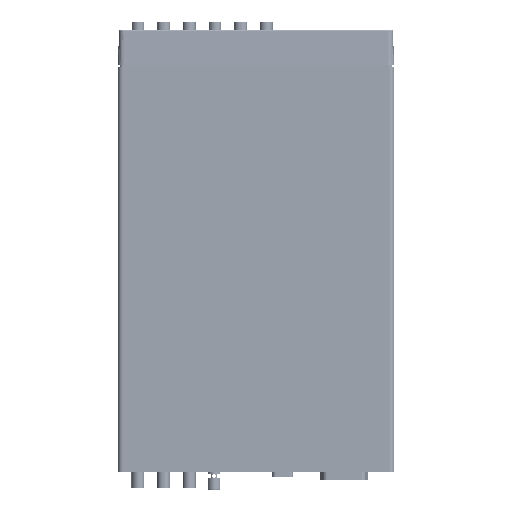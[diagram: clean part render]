
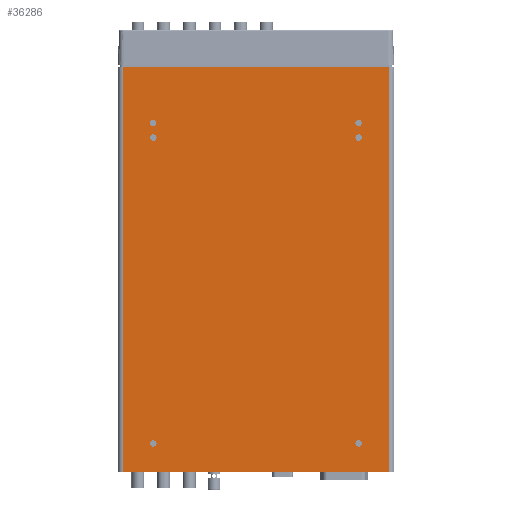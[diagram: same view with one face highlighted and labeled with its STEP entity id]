
A CAD part, front view. The second image highlights one B-rep face of the part: STEP entity #36286.
In plain terms, the highlighted planar face has unit normal (0, -1, 0) as drawn and (0, 1, 0) by its records, which use the part's own axes.
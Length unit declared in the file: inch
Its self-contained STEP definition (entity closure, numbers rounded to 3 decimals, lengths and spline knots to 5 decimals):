
#35405=DIRECTION('',(0.,0.,-1.));
#35406=VECTOR('',#35405,11.827);
#35407=CARTESIAN_POINT('',(-3.8888,0.,5.9135));
#35408=LINE('',#35407,#35406);
#35539=DIRECTION('',(-1.,0.,0.));
#35540=VECTOR('',#35539,7.7776);
#35541=CARTESIAN_POINT('',(3.8888,0.,5.9135));
#35542=LINE('',#35541,#35540);
#35551=DIRECTION('',(0.,0.,-1.));
#35552=VECTOR('',#35551,11.827);
#35553=CARTESIAN_POINT('',(3.8888,0.,5.9135));
#35554=LINE('',#35553,#35552);
#35555=CARTESIAN_POINT('',(-2.9992,0.,-5.0865));
#35556=DIRECTION('',(0.,-1.,0.));
#35557=DIRECTION('',(1.,0.,0.));
#35558=AXIS2_PLACEMENT_3D('',#35555,#35556,#35557);
#35560=CARTESIAN_POINT('',(-2.9992,0.,-5.0865));
#35561=DIRECTION('',(0.,-1.,0.));
#35562=DIRECTION('',(-1.,0.,0.));
#35563=AXIS2_PLACEMENT_3D('',#35560,#35561,#35562);
#35565=CARTESIAN_POINT('',(3.0008,0.,-5.0865));
#35566=DIRECTION('',(0.,-1.,0.));
#35567=DIRECTION('',(1.,0.,0.));
#35568=AXIS2_PLACEMENT_3D('',#35565,#35566,#35567);
#35570=CARTESIAN_POINT('',(3.0008,0.,-5.0865));
#35571=DIRECTION('',(0.,-1.,0.));
#35572=DIRECTION('',(-1.,0.,0.));
#35573=AXIS2_PLACEMENT_3D('',#35570,#35571,#35572);
#35575=CARTESIAN_POINT('',(-2.9992,0.,4.2785));
#35576=DIRECTION('',(0.,-1.,0.));
#35577=DIRECTION('',(1.,0.,0.));
#35578=AXIS2_PLACEMENT_3D('',#35575,#35576,#35577);
#35580=CARTESIAN_POINT('',(-2.9992,0.,4.2785));
#35581=DIRECTION('',(0.,-1.,0.));
#35582=DIRECTION('',(-1.,0.,0.));
#35583=AXIS2_PLACEMENT_3D('',#35580,#35581,#35582);
#35585=CARTESIAN_POINT('',(-2.9992,0.,3.8535));
#35586=DIRECTION('',(0.,-1.,0.));
#35587=DIRECTION('',(1.,0.,0.));
#35588=AXIS2_PLACEMENT_3D('',#35585,#35586,#35587);
#35590=CARTESIAN_POINT('',(-2.9992,0.,3.8535));
#35591=DIRECTION('',(0.,-1.,0.));
#35592=DIRECTION('',(-1.,0.,0.));
#35593=AXIS2_PLACEMENT_3D('',#35590,#35591,#35592);
#35595=CARTESIAN_POINT('',(3.0008,0.,3.8535));
#35596=DIRECTION('',(0.,-1.,0.));
#35597=DIRECTION('',(1.,0.,0.));
#35598=AXIS2_PLACEMENT_3D('',#35595,#35596,#35597);
#35600=CARTESIAN_POINT('',(3.0008,0.,3.8535));
#35601=DIRECTION('',(0.,-1.,0.));
#35602=DIRECTION('',(-1.,0.,0.));
#35603=AXIS2_PLACEMENT_3D('',#35600,#35601,#35602);
#35605=CARTESIAN_POINT('',(3.0008,0.,4.2785));
#35606=DIRECTION('',(0.,-1.,0.));
#35607=DIRECTION('',(1.,0.,0.));
#35608=AXIS2_PLACEMENT_3D('',#35605,#35606,#35607);
#35610=CARTESIAN_POINT('',(3.0008,0.,4.2785));
#35611=DIRECTION('',(0.,-1.,0.));
#35612=DIRECTION('',(-1.,0.,0.));
#35613=AXIS2_PLACEMENT_3D('',#35610,#35611,#35612);
#35615=DIRECTION('',(-1.,0.,0.));
#35616=VECTOR('',#35615,7.7776);
#35617=CARTESIAN_POINT('',(3.8888,0.,-5.9135));
#35618=LINE('',#35617,#35616);
#35695=CARTESIAN_POINT('',(3.8888,0.,5.9135));
#35696=CARTESIAN_POINT('',(-3.8888,0.,5.9135));
#35697=VERTEX_POINT('',#35695);
#35698=VERTEX_POINT('',#35696);
#35707=CARTESIAN_POINT('',(3.8888,0.,-5.9135));
#35708=CARTESIAN_POINT('',(-3.8888,0.,-5.9135));
#35709=VERTEX_POINT('',#35707);
#35710=VERTEX_POINT('',#35708);
#35795=CARTESIAN_POINT('',(3.09455,0.,4.2785));
#35796=CARTESIAN_POINT('',(2.90705,0.,4.2785));
#35797=VERTEX_POINT('',#35795);
#35798=VERTEX_POINT('',#35796);
#35799=CARTESIAN_POINT('',(3.09455,0.,3.8535));
#35800=CARTESIAN_POINT('',(2.90705,0.,3.8535));
#35801=VERTEX_POINT('',#35799);
#35802=VERTEX_POINT('',#35800);
#35803=CARTESIAN_POINT('',(-2.90545,0.,3.8535));
#35804=CARTESIAN_POINT('',(-3.09295,0.,3.8535));
#35805=VERTEX_POINT('',#35803);
#35806=VERTEX_POINT('',#35804);
#35807=CARTESIAN_POINT('',(-2.90545,0.,4.2785));
#35808=CARTESIAN_POINT('',(-3.09295,0.,4.2785));
#35809=VERTEX_POINT('',#35807);
#35810=VERTEX_POINT('',#35808);
#35811=CARTESIAN_POINT('',(3.09455,0.,-5.0865));
#35812=CARTESIAN_POINT('',(2.90705,0.,-5.0865));
#35813=VERTEX_POINT('',#35811);
#35814=VERTEX_POINT('',#35812);
#35815=CARTESIAN_POINT('',(-2.90545,0.,-5.0865));
#35816=CARTESIAN_POINT('',(-3.09295,0.,-5.0865));
#35817=VERTEX_POINT('',#35815);
#35818=VERTEX_POINT('',#35816);
#36238=CARTESIAN_POINT('',(3.8888,0.,5.9135));
#36239=DIRECTION('',(0.,1.,0.));
#36240=DIRECTION('',(-1.,0.,0.));
#36241=AXIS2_PLACEMENT_3D('',#36238,#36239,#36240);
#36242=PLANE('',#36241);
#36243=ORIENTED_EDGE('',*,*,#36230,.T.);
#36244=ORIENTED_EDGE('',*,*,#36092,.T.);
#36246=ORIENTED_EDGE('',*,*,#36245,.F.);
#36247=ORIENTED_EDGE('',*,*,#35943,.F.);
#36248=EDGE_LOOP('',(#36243,#36244,#36246,#36247));
#36249=FACE_OUTER_BOUND('',#36248,.F.);
#36251=ORIENTED_EDGE('',*,*,#36250,.F.);
#36253=ORIENTED_EDGE('',*,*,#36252,.F.);
#36254=EDGE_LOOP('',(#36251,#36253));
#36255=FACE_BOUND('',#36254,.F.);
#36257=ORIENTED_EDGE('',*,*,#36256,.F.);
#36259=ORIENTED_EDGE('',*,*,#36258,.F.);
#36260=EDGE_LOOP('',(#36257,#36259));
#36261=FACE_BOUND('',#36260,.F.);
#36263=ORIENTED_EDGE('',*,*,#36262,.F.);
#36265=ORIENTED_EDGE('',*,*,#36264,.F.);
#36266=EDGE_LOOP('',(#36263,#36265));
#36267=FACE_BOUND('',#36266,.F.);
#36269=ORIENTED_EDGE('',*,*,#36268,.F.);
#36271=ORIENTED_EDGE('',*,*,#36270,.F.);
#36272=EDGE_LOOP('',(#36269,#36271));
#36273=FACE_BOUND('',#36272,.F.);
#36275=ORIENTED_EDGE('',*,*,#36274,.F.);
#36277=ORIENTED_EDGE('',*,*,#36276,.F.);
#36278=EDGE_LOOP('',(#36275,#36277));
#36279=FACE_BOUND('',#36278,.F.);
#36281=ORIENTED_EDGE('',*,*,#36280,.F.);
#36283=ORIENTED_EDGE('',*,*,#36282,.F.);
#36284=EDGE_LOOP('',(#36281,#36283));
#36285=FACE_BOUND('',#36284,.F.);
#36286=ADVANCED_FACE('',(#36249,#36255,#36261,#36267,#36273,#36279,#36285),
#36242,.T.);
#35559=CIRCLE('',#35558,0.09375);
#35564=CIRCLE('',#35563,0.09375);
#35569=CIRCLE('',#35568,0.09375);
#35574=CIRCLE('',#35573,0.09375);
#35579=CIRCLE('',#35578,0.09375);
#35584=CIRCLE('',#35583,0.09375);
#35589=CIRCLE('',#35588,0.09375);
#35594=CIRCLE('',#35593,0.09375);
#35599=CIRCLE('',#35598,0.09375);
#35604=CIRCLE('',#35603,0.09375);
#35609=CIRCLE('',#35608,0.09375);
#35614=CIRCLE('',#35613,0.09375);
#35943=EDGE_CURVE('',#35697,#35709,#35554,.T.);
#36092=EDGE_CURVE('',#35698,#35710,#35408,.T.);
#36230=EDGE_CURVE('',#35697,#35698,#35542,.T.);
#36245=EDGE_CURVE('',#35709,#35710,#35618,.T.);
#36250=EDGE_CURVE('',#35817,#35818,#35559,.T.);
#36252=EDGE_CURVE('',#35818,#35817,#35564,.T.);
#36256=EDGE_CURVE('',#35813,#35814,#35569,.T.);
#36258=EDGE_CURVE('',#35814,#35813,#35574,.T.);
#36262=EDGE_CURVE('',#35809,#35810,#35579,.T.);
#36264=EDGE_CURVE('',#35810,#35809,#35584,.T.);
#36268=EDGE_CURVE('',#35805,#35806,#35589,.T.);
#36270=EDGE_CURVE('',#35806,#35805,#35594,.T.);
#36274=EDGE_CURVE('',#35801,#35802,#35599,.T.);
#36276=EDGE_CURVE('',#35802,#35801,#35604,.T.);
#36280=EDGE_CURVE('',#35797,#35798,#35609,.T.);
#36282=EDGE_CURVE('',#35798,#35797,#35614,.T.);
